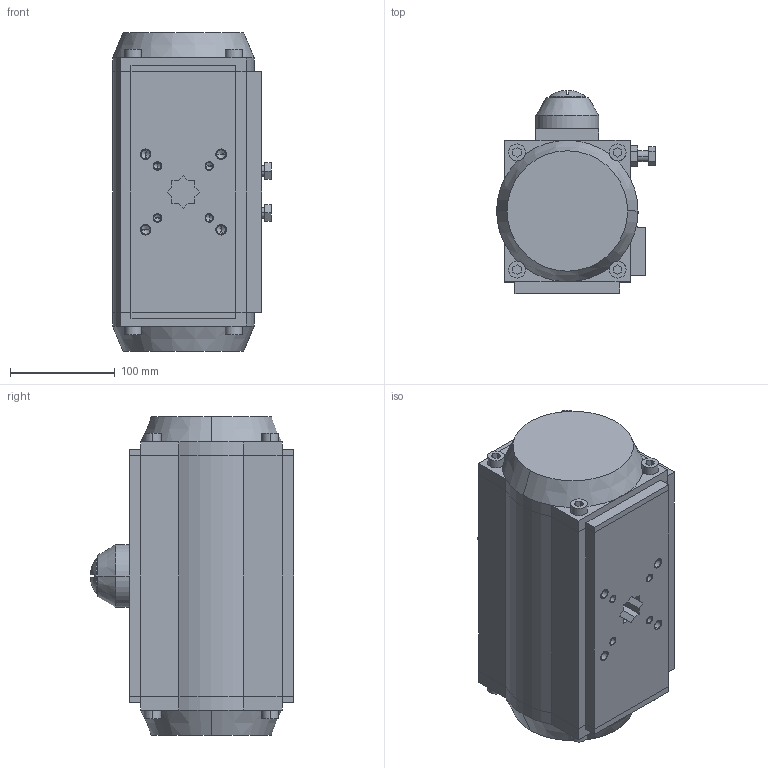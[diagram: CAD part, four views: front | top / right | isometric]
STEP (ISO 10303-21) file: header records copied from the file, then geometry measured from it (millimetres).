
FILE_DESCRIPTION((''),'2;1');
FILE_NAME('SB_PNEVMOPRIVOD_ASM','2024-02-03T',('DIMA'),(''),'PRO/ENGINEER BY PARAMETRIC TECHNOLOGY CORPORATION, 2008020','PRO/ENGINEER BY PARAMETRIC TECHNOLOGY CORPORATION, 2008020','');
FILE_SCHEMA(('CONFIG_CONTROL_DESIGN'));
Length unit declared in the file: millimetre
Products named in the file (7): KORPUS; KOLCO_35_GOST13942; KRISKA_VERX; VINT; KRISKA_LEFT; KRISKA_RIGHT; SB_PNEVMOPRIVOD_ASM
Assembly tree (6 placements, depth 2):
  SB_PNEVMOPRIVOD_ASM
    KORPUS
    KOLCO_35_GOST13942
    KRISKA_VERX
    VINT
    KRISKA_LEFT
    KRISKA_RIGHT
Bounding box: 151.5 x 193.96 x 304 mm (x, y, z)
Volume: 5509134.5 mm3; surface area: 315509.3 mm2
Topology: 6 solids, 32 shells, 456 faces, 1180 edges, 759 vertices
Faces by surface type: plane 245, cylinder 155, cone 54, sphere 2
Entity records: 13936 total; most frequent: CARTESIAN_POINT 2528, DIRECTION 2474, ORIENTED_EDGE 2160, EDGE_CURVE 1134, AXIS2_PLACEMENT_3D 883, VERTEX_POINT 759, VECTOR 708, LINE 708
